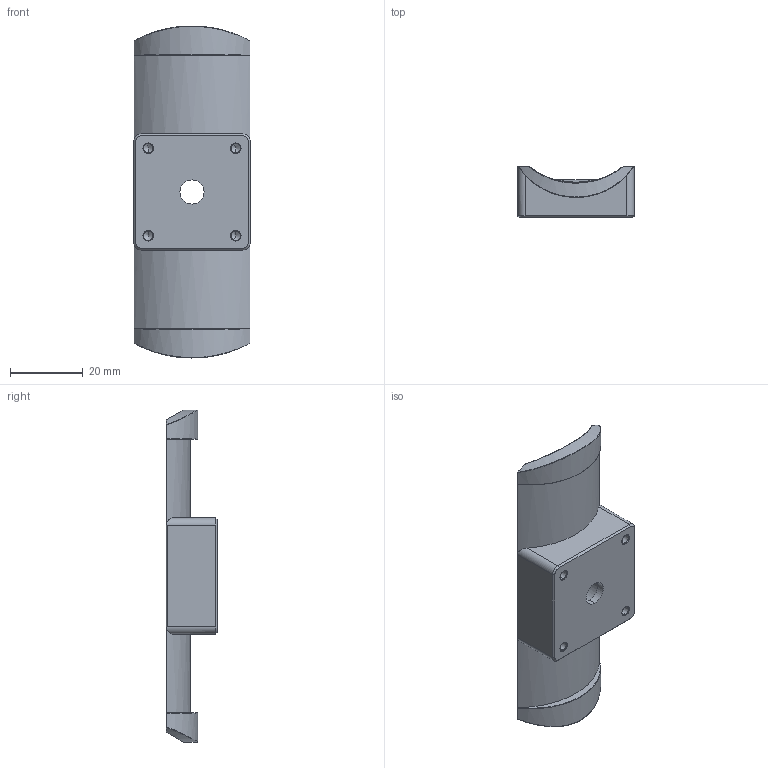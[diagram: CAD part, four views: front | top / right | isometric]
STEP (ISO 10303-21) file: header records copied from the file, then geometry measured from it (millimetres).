
FILE_DESCRIPTION (( 'STEP AP214' ), '1' );
FILE_NAME ('ANB Mount.STEP', '2025-11-05T21:21:48', ( '' ), ( '' ), 'SwSTEP 2.0', 'SolidWorks 2024', '' );
FILE_SCHEMA (( 'AUTOMOTIVE_DESIGN' ));
Length unit declared in the file: millimetre
Products named in the file (1): ANB Mount
Bounding box: 31.82 x 14.09 x 91 mm (x, y, z)
Volume: 14966.1 mm3; surface area: 8243.8 mm2
Topology: 1 solids, 1 shells, 97 faces, 240 edges, 140 vertices
Faces by surface type: cylinder 33, plane 22, cone 20, torus 10, bspline 8, sphere 4
Entity records: 3637 total; most frequent: CARTESIAN_POINT 1477, ORIENTED_EDGE 456, DIRECTION 426, EDGE_CURVE 228, AXIS2_PLACEMENT_3D 169, VERTEX_POINT 140, EDGE_LOOP 106, ADVANCED_FACE 97
